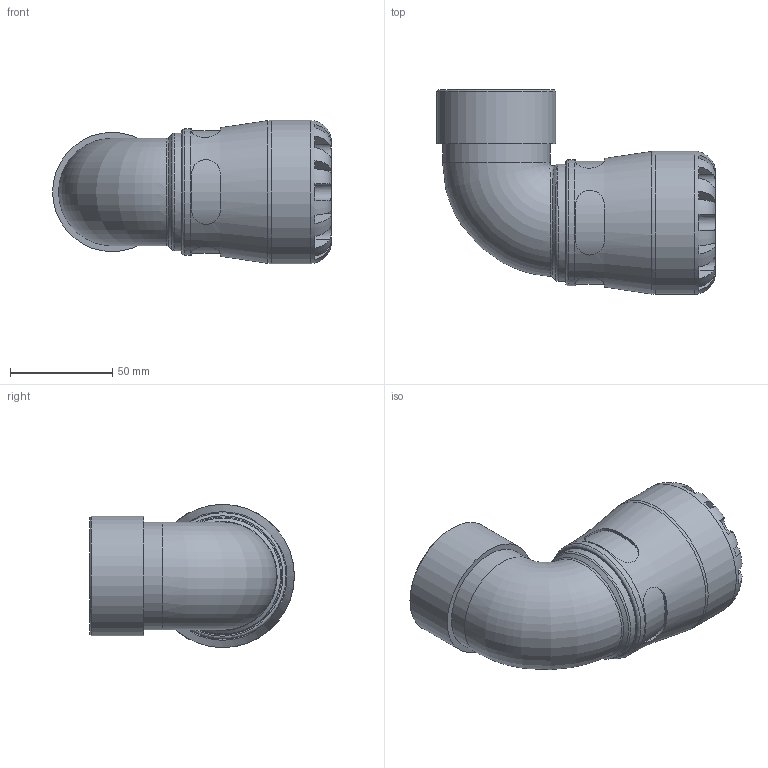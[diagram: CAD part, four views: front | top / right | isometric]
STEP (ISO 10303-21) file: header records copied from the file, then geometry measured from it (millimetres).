
FILE_DESCRIPTION(/* description */ ('PLASSON 90° ELBOW WITH THREADED FEMALE OFFTAKE 40X1.1/2" SERIES 1'),/* implementation_level */ '2;1');
FILE_NAME(/* name */ 'C:\Dropbox\KIMPROJECTS-Inventor\99-16-3568-Processing\S1\1015\101500040015_191500040015.ipt.stp',/* time_stamp */ '2017-07-30T11:52:03+03:00',/* author */ ('KIM'),/* organization */ (''),/* preprocessor_version */ 'ST-DEVELOPER v15.6',/* originating_system */ 'Autodesk Inventor 2015',/* authorisation */ '');
FILE_SCHEMA (('AUTOMOTIVE_DESIGN { 1 0 10303 214 3 1 1 }'));
Length unit declared in the file: millimetre
Products named in the file (1): 101500040015_191500040015
Bounding box: 136.15 x 100 x 70 mm (x, y, z)
Volume: 236896.6 mm3; surface area: 56618.1 mm2
Topology: 1 solids, 1 shells, 110 faces, 266 edges, 165 vertices
Faces by surface type: plane 62, cylinder 37, torus 6, bspline 3, cone 2
Full cylindrical faces by diameter (mm): 40 x1, 40.361 x2, 44.845 x1, 52.469 x1, 57.4 x1, 58.298 x1, 61.6 x1, 70 x1
Entity records: 4257 total; most frequent: CARTESIAN_POINT 1827, ORIENTED_EDGE 488, DIRECTION 487, EDGE_CURVE 244, AXIS2_PLACEMENT_3D 203, VERTEX_POINT 161, EDGE_LOOP 137, FACE_OUTER_BOUND 110
